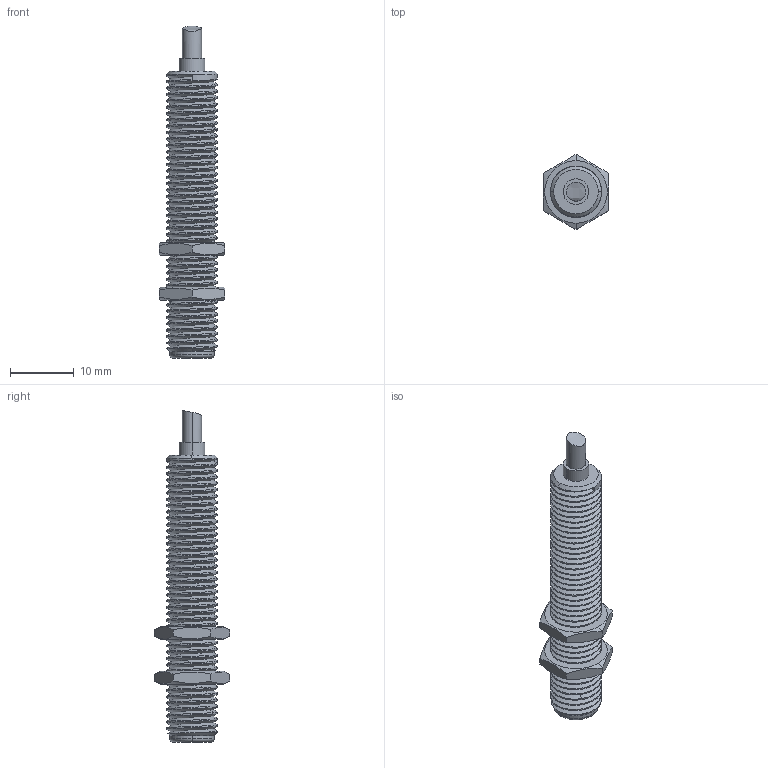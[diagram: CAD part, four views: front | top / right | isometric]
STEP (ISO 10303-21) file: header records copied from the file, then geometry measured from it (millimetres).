
FILE_DESCRIPTION((''),'2;1');
FILE_NAME('M8_QP_L45_ASM','2019-07-16T',('Administrator'),(''),'PRO/ENGINEER BY PARAMETRIC TECHNOLOGY CORPORATION, 2012130','PRO/ENGINEER BY PARAMETRIC TECHNOLOGY CORPORATION, 2012130','');
FILE_SCHEMA(('AUTOMOTIVE_DESIGN { 1 0 10303 214 1 1 1 1 }'));
Length unit declared in the file: millimetre
Products named in the file (3): M8_QP_L45; M8_LM; M8_QP_L45_ASM
Assembly tree (3 placements, depth 2):
  M8_QP_L45_ASM
    M8_QP_L45
    M8_LM  x2
Bounding box: 10.22 x 11.8 x 52.1 mm (x, y, z)
Volume: 2196.2 mm3; surface area: 2442.7 mm2
Topology: 3 solids, 3 shells, 165 faces, 447 edges, 290 vertices
Faces by surface type: cylinder 100, bspline 28, plane 23, cone 11, torus 2, extrusion 1
Entity records: 12503 total; most frequent: CARTESIAN_POINT 9088, ORIENTED_EDGE 794, DIRECTION 444, EDGE_CURVE 397, VERTEX_POINT 258, B_SPLINE_CURVE_WITH_KNOTS 233, AXIS2_PLACEMENT_3D 153, EDGE_LOOP 149
